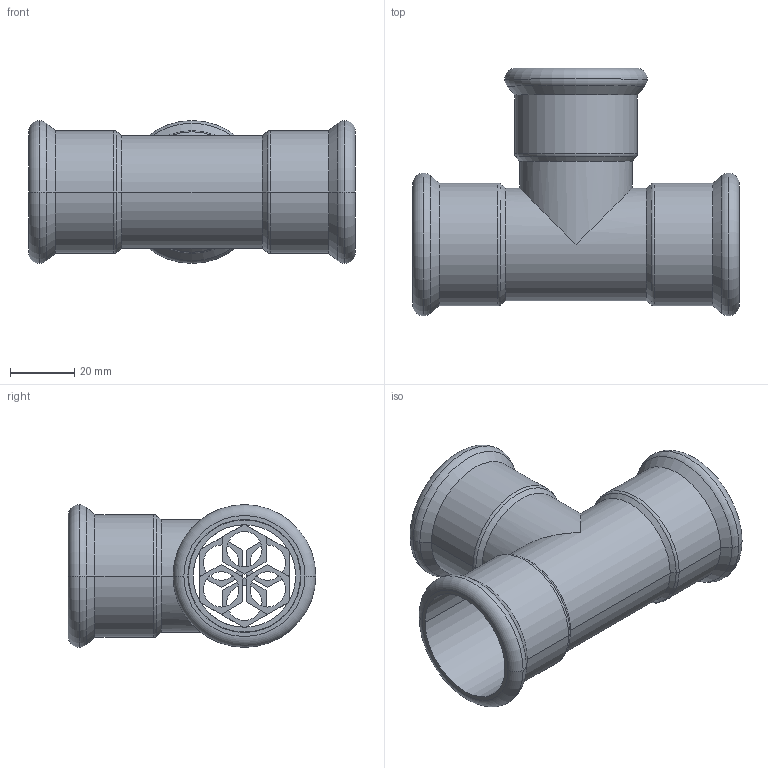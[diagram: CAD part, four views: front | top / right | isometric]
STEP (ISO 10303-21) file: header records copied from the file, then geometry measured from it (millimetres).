
FILE_DESCRIPTION(('OneSpaceDesigner STEP Export'),'2;1');
FILE_NAME('R2714 35x35x35.stp','2010-06-10T 8:40:10',(''),(''),'OneSpace Designer STEP processor for AP214 (Solid Model)','OneSpace Modeling 15.00A 14-Mar-2007 (C) CoCreate Software GmbH','');
FILE_SCHEMA(('AUTOMOTIVE_DESIGN { 1 0 10303 214 1 1 1 1 }'));
Length unit declared in the file: millimetre
Products named in the file (2): R2714_35x35x35
Assembly tree (1 placements, depth 2):
  R2714_35x35x35
    R2714_35x35x35
Bounding box: 102 x 77.28 x 44.55 mm (x, y, z)
Volume: 32475.5 mm3; surface area: 36113.3 mm2
Topology: 1 solids, 1 shells, 173 faces, 435 edges, 278 vertices
Faces by surface type: plane 90, cylinder 53, torus 18, cone 12
Entity records: 4587 total; most frequent: ORIENTED_EDGE 870, CARTESIAN_POINT 749, DIRECTION 679, EDGE_CURVE 435, VERTEX_POINT 278, VECTOR 263, LINE 263, EDGE_LOOP 209
